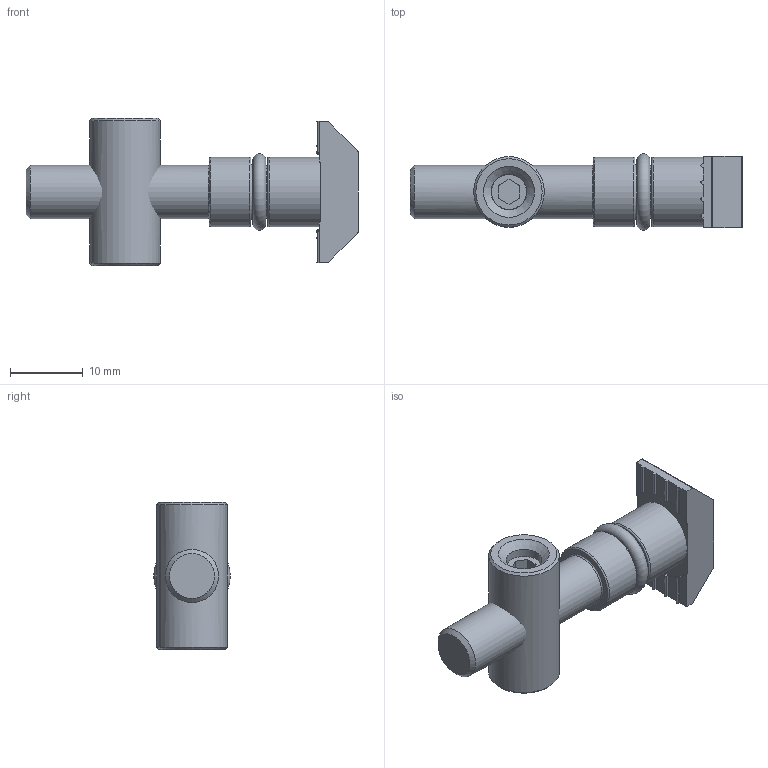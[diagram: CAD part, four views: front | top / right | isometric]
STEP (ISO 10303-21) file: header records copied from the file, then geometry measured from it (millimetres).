
FILE_DESCRIPTION(/* description */ ('STEP AP214'),/* implementation_level */ '2;1');
FILE_NAME(/* name */ '099B10101000',/* time_stamp */ '2025-04-03T10:40:08+02:00',/* author */ ('License CC BY-ND 4.0'),/* organization */ ('CADENAS'),/* preprocessor_version */ 'ST-DEVELOPER v19.3',/* originating_system */ 'PARTsolutions',/* authorisation */ ' ');
FILE_SCHEMA (('AUTOMOTIVE_DESIGN {1 0 10303 214 3 1 1}'));
Length unit declared in the file: millimetre
Products named in the file (6): 099B10101000; 099B10101000d; 099B10101000sc; 099B10101000din; 099B10101000c; 099B10101000b1
Assembly tree (5 placements, depth 2):
  099B10101000
    099B10101000d
    099B10101000sc
    099B10101000din
    099B10101000c
    099B10101000b1
Bounding box: 45.6 x 10.5 x 20.2 mm (x, y, z)
Volume: 4066.2 mm3; surface area: 2971.6 mm2
Topology: 4 solids, 4 shells, 85 faces, 211 edges, 138 vertices
Faces by surface type: plane 49, cylinder 22, cone 7, torus 7
Full cylindrical faces by diameter (mm): 4.917 x1, 6 x1, 7 x1, 7.3 x2, 9.6 x2, 9.7 x1
Entity records: 2624 total; most frequent: CARTESIAN_POINT 514, DIRECTION 424, ORIENTED_EDGE 370, EDGE_CURVE 185, AXIS2_PLACEMENT_3D 160, VERTEX_POINT 135, FACE_BOUND 116, EDGE_LOOP 114
